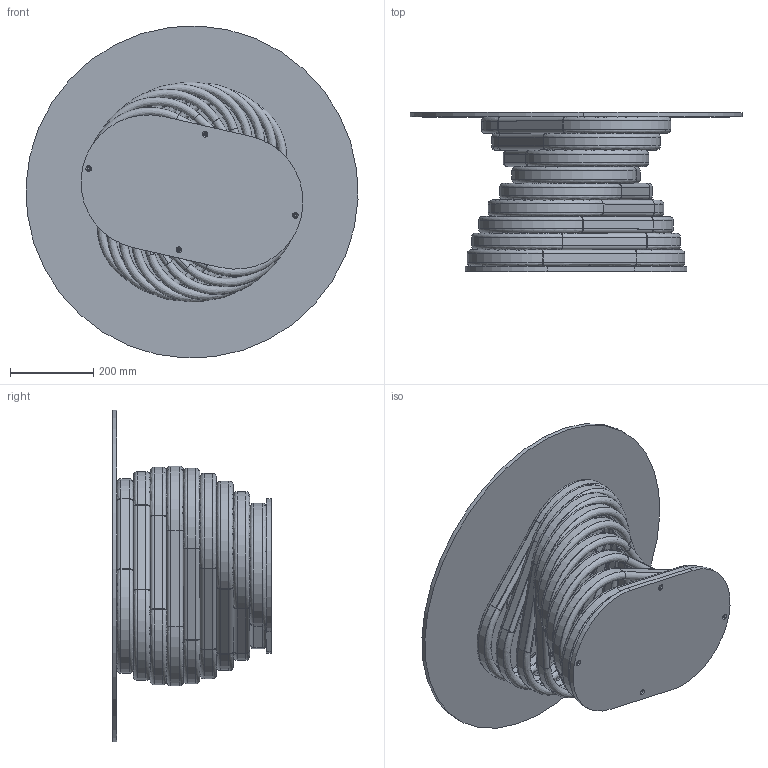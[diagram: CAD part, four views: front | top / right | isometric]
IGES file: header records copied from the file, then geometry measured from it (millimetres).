
Start section: SolidWorks IGES file using analytic representation for surfaces
Global section: file name: Y:\eforma\TECNICO\SOLIDWORKS\E-FORMA\2-TAVOLINI\ROTOLO LOW\02 parts\RL12G.IGS; native system: SolidWorks 2022; preprocessor: SolidWorks 2022; author: eforma.tech; date: 240806.143500; units: millimetre
Bounding box: 799.26 x 382 x 799.26 mm (x, y, z)
Volume: 9557744.1 mm3; surface area: 3840834.3 mm2
Topology: 41 solids, 41 shells, 454 faces, 1108 edges, 734 vertices
Faces by surface type: revolution 280, plane 172, bspline 2
